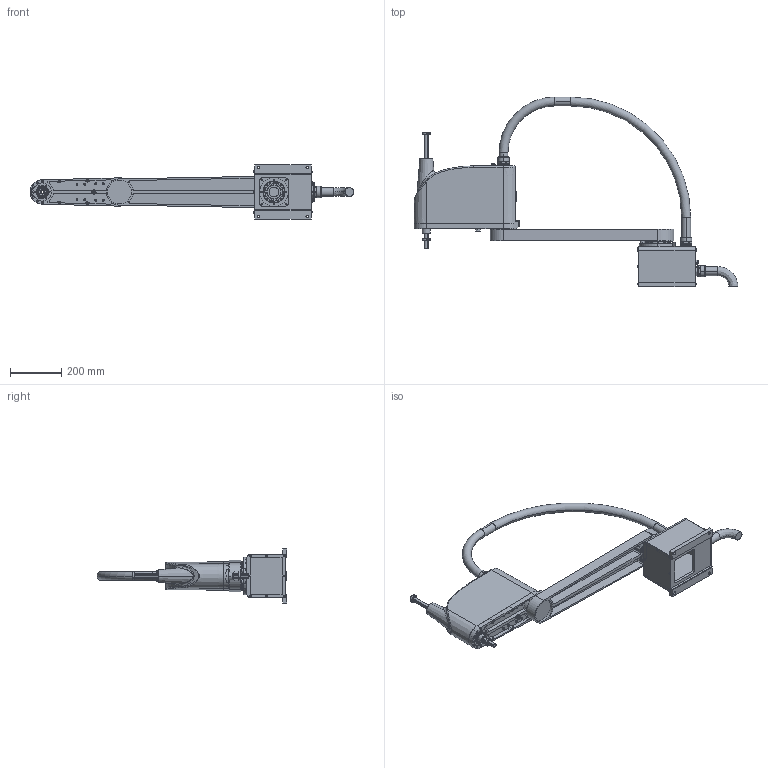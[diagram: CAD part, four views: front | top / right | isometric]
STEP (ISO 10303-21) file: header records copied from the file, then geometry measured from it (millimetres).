
FILE_DESCRIPTION (( 'STEP AP203' ), '1' );
FILE_NAME ('AR9225-E_外发.STEP', '2019-10-23T01:33:15', ( '微软用户' ), ( '微软中国' ), 'SwSTEP 2.0', 'SolidWorks 2018', '' );
FILE_SCHEMA (( 'CONFIG_CONTROL_DESIGN' ));
Length unit declared in the file: millimetre
Products named in the file (7): AR9225-E_X; AR7225-C_Y; 帣盄; AR7225-C_Z+R; AR7225-C_菁釱; AR9225-E_俋楷; 儂旯萇擢_0_AR9225-E
Assembly tree (6 placements, depth 2):
  AR9225-E_俋楷
    AR7225-C_菁釱
    AR9225-E_X
    AR7225-C_Y
    AR7225-C_Z+R
    儂旯萇擢_0_AR9225-E
    帣盄
Bounding box: 1258.25 x 737.95 x 210 mm (x, y, z)
Volume: 1282821.4 mm3; surface area: 1281839.7 mm2
Topology: 2 solids, 241 shells, 1858 faces, 5752 edges, 4098 vertices
Faces by surface type: plane 835, cylinder 697, bspline 165, cone 143, torus 16, sphere 2
Entity records: 98491 total; most frequent: CARTESIAN_POINT 48176, DIRECTION 10131, ORIENTED_EDGE 9085, EDGE_CURVE 5699, VERTEX_POINT 4098, AXIS2_PLACEMENT_3D 3612, VECTOR 2907, LINE 2907
